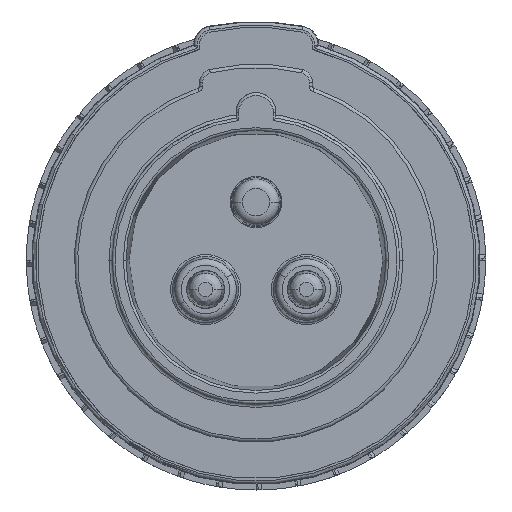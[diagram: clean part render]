
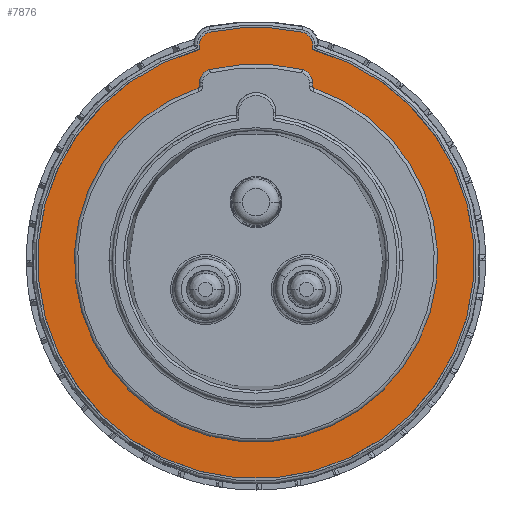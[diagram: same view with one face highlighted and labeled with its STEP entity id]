
A CAD part, front view. The second image highlights one B-rep face of the part: STEP entity #7876.
In plain terms, the highlighted planar face has unit normal (0, -1, 0).
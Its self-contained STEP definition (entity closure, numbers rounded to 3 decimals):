
#405=CARTESIAN_POINT('',(-6.5,2.5,26.721));
#406=DIRECTION('',(0.,1.,0.));
#407=DIRECTION('',(-1.,0.,0.));
#408=AXIS2_PLACEMENT_3D('',#405,#406,#407);
#418=CARTESIAN_POINT('',(0.,2.5,0.));
#419=DIRECTION('',(0.,-1.,0.));
#420=DIRECTION('',(-0.259,0.,0.966));
#421=AXIS2_PLACEMENT_3D('',#418,#419,#420);
#423=DIRECTION('',(0.,0.,-1.));
#424=VECTOR('',#423,0.674);
#425=CARTESIAN_POINT('',(-8.5,2.5,32.354));
#426=LINE('706',#425,#424);
#427=CARTESIAN_POINT('',(-6.5,2.5,32.354));
#428=DIRECTION('',(0.,-1.,0.));
#429=DIRECTION('',(-0.197,0.,0.98));
#430=AXIS2_PLACEMENT_3D('',#427,#428,#429);
#432=CARTESIAN_POINT('',(0.,2.5,0.));
#433=DIRECTION('',(0.,-1.,0.));
#434=DIRECTION('',(0.197,0.,0.98));
#435=AXIS2_PLACEMENT_3D('',#432,#433,#434);
#437=CARTESIAN_POINT('',(6.5,2.5,32.354));
#438=DIRECTION('',(0.,-1.,0.));
#439=DIRECTION('',(1.,0.,0.));
#440=AXIS2_PLACEMENT_3D('',#437,#438,#439);
#442=DIRECTION('',(0.,0.,1.));
#443=VECTOR('',#442,0.674);
#444=CARTESIAN_POINT('',(8.5,2.5,31.679));
#445=LINE('702',#444,#443);
#5094=CARTESIAN_POINT('',(0.,2.5,0.));
#5095=DIRECTION('',(0.,-1.,0.));
#5096=DIRECTION('',(-0.319,0.,0.948));
#5097=AXIS2_PLACEMENT_3D('',#5094,#5095,#5096);
#5099=CARTESIAN_POINT('',(-8.8,2.5,26.16));
#5100=DIRECTION('',(0.,1.,0.));
#5101=DIRECTION('',(1.,0.,0.));
#5102=AXIS2_PLACEMENT_3D('',#5099,#5100,#5101);
#5112=DIRECTION('',(0.,0.,-1.));
#5113=VECTOR('',#5112,0.561);
#5114=CARTESIAN_POINT('',(-8.5,2.5,26.721));
#5115=LINE('711',#5114,#5113);
#5174=CARTESIAN_POINT('',(8.8,2.5,26.16));
#5175=DIRECTION('',(0.,-1.,0.));
#5176=DIRECTION('',(-1.,0.,0.));
#5177=AXIS2_PLACEMENT_3D('',#5174,#5175,#5176);
#5187=DIRECTION('',(0.,0.,1.));
#5188=VECTOR('',#5187,0.561);
#5189=CARTESIAN_POINT('',(8.5,2.5,26.16));
#5190=LINE('712',#5189,#5188);
#5219=CARTESIAN_POINT('',(6.5,2.5,26.721));
#5220=DIRECTION('',(0.,1.,0.));
#5221=DIRECTION('',(0.236,0.,0.972));
#5222=AXIS2_PLACEMENT_3D('',#5219,#5220,#5221);
#5232=CARTESIAN_POINT('',(0.,2.5,0.));
#5233=DIRECTION('',(0.,-1.,0.));
#5234=DIRECTION('',(0.236,0.,0.972));
#5235=AXIS2_PLACEMENT_3D('',#5232,#5233,#5234);
#6488=CARTESIAN_POINT('',(-8.5,2.5,31.679));
#6489=CARTESIAN_POINT('',(8.5,2.5,31.679));
#6490=VERTEX_POINT('',#6488);
#6491=VERTEX_POINT('',#6489);
#6492=CARTESIAN_POINT('',(8.5,2.5,32.354));
#6493=VERTEX_POINT('',#6492);
#6494=CARTESIAN_POINT('',(6.894,2.5,34.314));
#6495=VERTEX_POINT('',#6494);
#6496=CARTESIAN_POINT('',(-6.894,2.5,34.314));
#6497=VERTEX_POINT('',#6496);
#6498=CARTESIAN_POINT('',(-8.5,2.5,32.354));
#6499=VERTEX_POINT('',#6498);
#6504=CARTESIAN_POINT('',(-8.704,2.5,25.875));
#6505=CARTESIAN_POINT('',(8.704,2.5,25.875));
#6506=VERTEX_POINT('',#6504);
#6507=VERTEX_POINT('',#6505);
#6508=CARTESIAN_POINT('',(6.973,2.5,28.664));
#6509=CARTESIAN_POINT('',(-6.973,2.5,28.664));
#6510=VERTEX_POINT('',#6508);
#6511=VERTEX_POINT('',#6509);
#6512=CARTESIAN_POINT('',(-8.5,2.5,26.721));
#6513=CARTESIAN_POINT('',(-8.5,2.5,26.16));
#6514=VERTEX_POINT('',#6512);
#6515=VERTEX_POINT('',#6513);
#6516=CARTESIAN_POINT('',(8.5,2.5,26.16));
#6517=CARTESIAN_POINT('',(8.5,2.5,26.721));
#6518=VERTEX_POINT('',#6516);
#6519=VERTEX_POINT('',#6517);
#7840=CARTESIAN_POINT('',(0.,2.5,0.));
#7841=DIRECTION('',(0.,-1.,0.));
#7842=DIRECTION('',(0.,0.,1.));
#7843=AXIS2_PLACEMENT_3D('',#7840,#7841,#7842);
#7844=PLANE('163',#7843);
#7846=ORIENTED_EDGE('701',*,*,#7845,.F.);
#7848=ORIENTED_EDGE('706',*,*,#7847,.F.);
#7850=ORIENTED_EDGE('705',*,*,#7849,.F.);
#7852=ORIENTED_EDGE('704',*,*,#7851,.F.);
#7854=ORIENTED_EDGE('703',*,*,#7853,.F.);
#7856=ORIENTED_EDGE('702',*,*,#7855,.F.);
#7857=EDGE_LOOP('163',(#7846,#7848,#7850,#7852,#7854,#7856));
#7858=FACE_OUTER_BOUND('163',#7857,.F.);
#7860=ORIENTED_EDGE('709',*,*,#7859,.T.);
#7862=ORIENTED_EDGE('715',*,*,#7861,.F.);
#7864=ORIENTED_EDGE('712',*,*,#7863,.T.);
#7866=ORIENTED_EDGE('713',*,*,#7865,.F.);
#7868=ORIENTED_EDGE('710',*,*,#7867,.T.);
#7869=ORIENTED_EDGE('714',*,*,#7818,.F.);
#7871=ORIENTED_EDGE('711',*,*,#7870,.T.);
#7873=ORIENTED_EDGE('716',*,*,#7872,.T.);
#7874=EDGE_LOOP('163',(#7860,#7862,#7864,#7866,#7868,#7869,#7871,#7873));
#7875=FACE_BOUND('163',#7874,.F.);
#409=CIRCLE('714',#408,2.);
#422=CIRCLE('701',#421,32.8);
#431=CIRCLE('705',#430,2.);
#436=CIRCLE('704',#435,35.);
#441=CIRCLE('703',#440,2.);
#5098=CIRCLE('709',#5097,27.3);
#5103=CIRCLE('716',#5102,0.3);
#5178=CIRCLE('715',#5177,0.3);
#5223=CIRCLE('713',#5222,2.);
#5236=CIRCLE('710',#5235,29.5);
#7818=EDGE_CURVE('714',#6514,#6511,#409,.T.);
#7845=EDGE_CURVE('701',#6490,#6491,#422,.T.);
#7847=EDGE_CURVE('706',#6499,#6490,#426,.T.);
#7849=EDGE_CURVE('705',#6497,#6499,#431,.T.);
#7851=EDGE_CURVE('704',#6495,#6497,#436,.T.);
#7853=EDGE_CURVE('703',#6493,#6495,#441,.T.);
#7855=EDGE_CURVE('702',#6491,#6493,#445,.T.);
#7859=EDGE_CURVE('709',#6506,#6507,#5098,.T.);
#7861=EDGE_CURVE('715',#6518,#6507,#5178,.T.);
#7863=EDGE_CURVE('712',#6518,#6519,#5190,.T.);
#7865=EDGE_CURVE('713',#6510,#6519,#5223,.T.);
#7867=EDGE_CURVE('710',#6510,#6511,#5236,.T.);
#7870=EDGE_CURVE('711',#6514,#6515,#5115,.T.);
#7872=EDGE_CURVE('716',#6515,#6506,#5103,.T.);
#7876=ADVANCED_FACE('163',(#7858,#7875),#7844,.T.);
